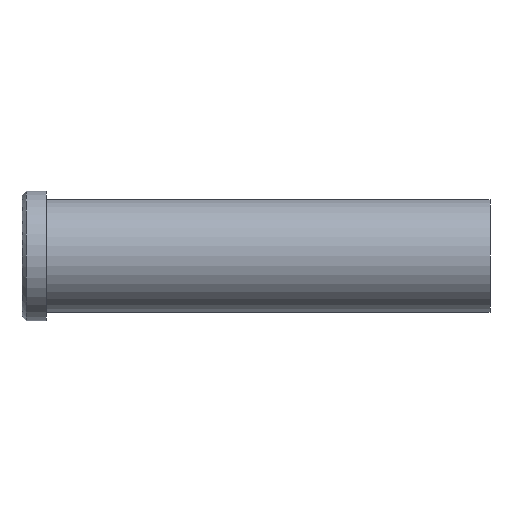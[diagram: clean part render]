
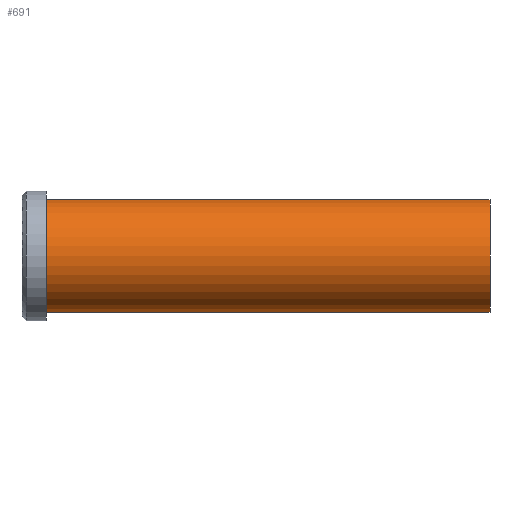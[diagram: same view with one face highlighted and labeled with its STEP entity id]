
A CAD part, front view. The second image highlights one B-rep face of the part: STEP entity #691.
In plain terms, the highlighted cylindrical face has radius 14 mm (diameter 28 mm), a partial arc.
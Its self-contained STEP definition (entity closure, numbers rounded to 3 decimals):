
#501=CARTESIAN_POINT('Vertex',(0.,0.,-14.)) ;
#506=CARTESIAN_POINT('Axis2P3D Location',(0.,0.,0.)) ;
#510=CARTESIAN_POINT('Vertex',(0.,-14.,0.)) ;
#513=CARTESIAN_POINT('Axis2P3D Location',(0.,0.,0.)) ;
#517=CARTESIAN_POINT('Vertex',(0.,0.,14.)) ;
#631=CARTESIAN_POINT('Line Origine',(110.,0.,14.)) ;
#635=CARTESIAN_POINT('Vertex',(110.,0.,14.)) ;
#649=CARTESIAN_POINT('Vertex',(110.,0.,-14.)) ;
#652=CARTESIAN_POINT('Line Origine',(110.,0.,-14.)) ;
#666=CARTESIAN_POINT('Axis2P3D Location',(110.,0.,0.)) ;
#671=CARTESIAN_POINT('Axis2P3D Location',(110.,0.,0.)) ;
#675=CARTESIAN_POINT('Vertex',(110.,-14.,0.)) ;
#678=CARTESIAN_POINT('Axis2P3D Location',(110.,0.,0.)) ;
#507=DIRECTION('Axis2P3D Direction',(1.,0.,-0.)) ;
#514=DIRECTION('Axis2P3D Direction',(1.,0.,-0.)) ;
#632=DIRECTION('Vector Direction',(-1.,0.,0.)) ;
#653=DIRECTION('Vector Direction',(-1.,0.,0.)) ;
#667=DIRECTION('Axis2P3D Direction',(-1.,-0.,-0.)) ;
#668=DIRECTION('Axis2P3D XDirection',(0.,0.,-1.)) ;
#672=DIRECTION('Axis2P3D Direction',(-1.,-0.,-0.)) ;
#679=DIRECTION('Axis2P3D Direction',(-1.,-0.,-0.)) ;
#508=AXIS2_PLACEMENT_3D('Circle Axis2P3D',#506,#507,$) ;
#515=AXIS2_PLACEMENT_3D('Circle Axis2P3D',#513,#514,$) ;
#669=AXIS2_PLACEMENT_3D('Cylinder Axis2P3D',#666,#667,#668) ;
#673=AXIS2_PLACEMENT_3D('Circle Axis2P3D',#671,#672,$) ;
#680=AXIS2_PLACEMENT_3D('Circle Axis2P3D',#678,#679,$) ;
#684=ORIENTED_EDGE('',*,*,#656,.T.) ;
#685=ORIENTED_EDGE('',*,*,#677,.F.) ;
#686=ORIENTED_EDGE('',*,*,#682,.F.) ;
#687=ORIENTED_EDGE('',*,*,#637,.T.) ;
#688=ORIENTED_EDGE('',*,*,#519,.T.) ;
#689=ORIENTED_EDGE('',*,*,#512,.T.) ;
#633=VECTOR('Line Direction',#632,1.) ;
#654=VECTOR('Line Direction',#653,1.) ;
#691=ADVANCED_FACE('353-20X116',(#690),#670,.T.) ;
#509=CIRCLE('generated circle',#508,14.) ;
#516=CIRCLE('generated circle',#515,14.) ;
#674=CIRCLE('generated circle',#673,14.) ;
#681=CIRCLE('generated circle',#680,14.) ;
#670=CYLINDRICAL_SURFACE('generated cylinder',#669,14.) ;
#512=EDGE_CURVE('',#511,#502,#509,.T.) ;
#519=EDGE_CURVE('',#518,#511,#516,.T.) ;
#637=EDGE_CURVE('',#636,#518,#634,.T.) ;
#656=EDGE_CURVE('',#502,#650,#655,.F.) ;
#677=EDGE_CURVE('',#676,#650,#674,.F.) ;
#682=EDGE_CURVE('',#636,#676,#681,.F.) ;
#683=EDGE_LOOP('',(#684,#685,#686,#687,#688,#689)) ;
#690=FACE_OUTER_BOUND('',#683,.T.) ;
#634=LINE('Line',#631,#633) ;
#655=LINE('Line',#652,#654) ;
#502=VERTEX_POINT('',#501) ;
#511=VERTEX_POINT('',#510) ;
#518=VERTEX_POINT('',#517) ;
#636=VERTEX_POINT('',#635) ;
#650=VERTEX_POINT('',#649) ;
#676=VERTEX_POINT('',#675) ;
